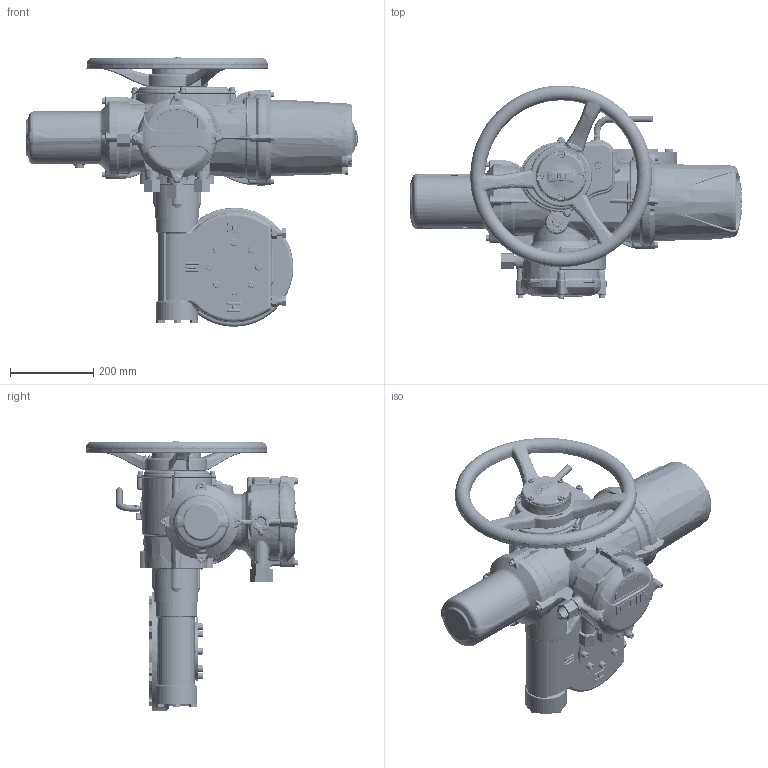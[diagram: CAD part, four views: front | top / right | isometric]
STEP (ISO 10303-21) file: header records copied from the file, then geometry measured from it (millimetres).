
FILE_DESCRIPTION( ( 'Unknown' ), '1' );
FILE_NAME( 'S:/DocsUnderChange/DrawingsFromMTMS/InstallationDrgs/Standardised drawings/IQ3/IWD/II2THWIWD5STD-1.stp', 'Unknown', ( 'Unknown' ), ( 'Unknown' ), 'PSStep 17.0.49', 'Unknown', ' ' );
FILE_SCHEMA( ( 'AUTOMOTIVE_DESIGN { 1 0 10303 214 1 1 1 1 }' ) );
Length unit declared in the file: millimetre
Products named in the file (8): II0-55-std
Bounding box: 795.75 x 510.09 x 645.59 mm (x, y, z)
Volume: 31887 mm3; surface area: 1603154.5 mm2
Topology: 67 solids, 68 shells, 6929 faces, 17257 edges, 10377 vertices
Faces by surface type: bspline 2307, plane 2066, cylinder 937, cone 671, torus 576, sphere 192, extrusion 144, revolution 21, offset 15
Full cylindrical faces by diameter (mm): 1.152 x1, 3 x8, 3.54 x2, 4 x2, 6 x3, 6.45 x8, 6.47 x8, 6.5 x1, 7 x4, 7.6 x4, 8 x25, 8.1 x1, 8.2 x1, 8.5 x4, 10 x21, 10.3 x8, 10.5 x16, 10.625 x4, 11 x8, 11.78 x1, 13 x17, 13.25 x4, 14 x1, 14.376 x4, 15.5 x1, 15.84 x1, 16 x14, 18 x3, 23.058 x3, 24.78 x1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
Entity records: 623157 total; most frequent: CARTESIAN_POINT 426590, ORIENTED_EDGE 32402, DIRECTION 24409, EDGE_CURVE 16201, VERTEX_POINT 10084, AXIS2_PLACEMENT_3D 10015, EDGE_LOOP 7706, FACE_OUTER_BOUND 7204
